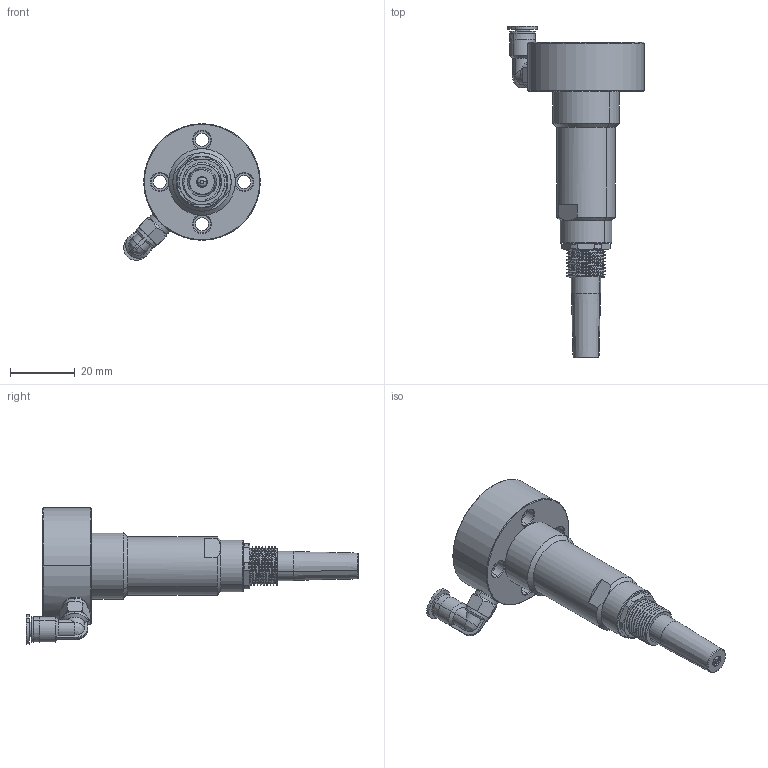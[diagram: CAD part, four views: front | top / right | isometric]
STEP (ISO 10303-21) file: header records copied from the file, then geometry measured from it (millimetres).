
FILE_DESCRIPTION (( 'STEP AP214' ), '1' );
FILE_NAME ('Testina aspirazione Pluto 010121-UNI.STEP', '2020-07-07T13:42:16', ( '' ), ( '' ), 'SwSTEP 2.0', 'SolidWorks 2017', '' );
FILE_SCHEMA (( 'AUTOMOTIVE_DESIGN' ));
Length unit declared in the file: millimetre
Products named in the file (2): Testina aspirazione Pluto 010121-UNI
Bounding box: 42.18 x 102.53 x 42.18 mm (x, y, z)
Volume: 21599.6 mm3; surface area: 18483 mm2
Topology: 9 solids, 9 shells, 389 faces, 956 edges, 602 vertices
Faces by surface type: cylinder 187, plane 86, cone 85, bspline 25, torus 6
Entity records: 27406 total; most frequent: CARTESIAN_POINT 14433, ORIENTED_EDGE 1908, DIRECTION 1685, EDGE_CURVE 954, AXIS2_PLACEMENT_3D 680, VERTEX_POINT 602, EDGE_LOOP 428, UNCERTAINTY_MEASURE_WITH_UNIT 400
